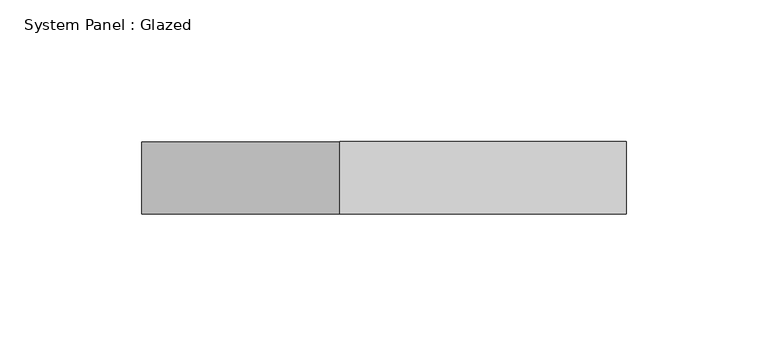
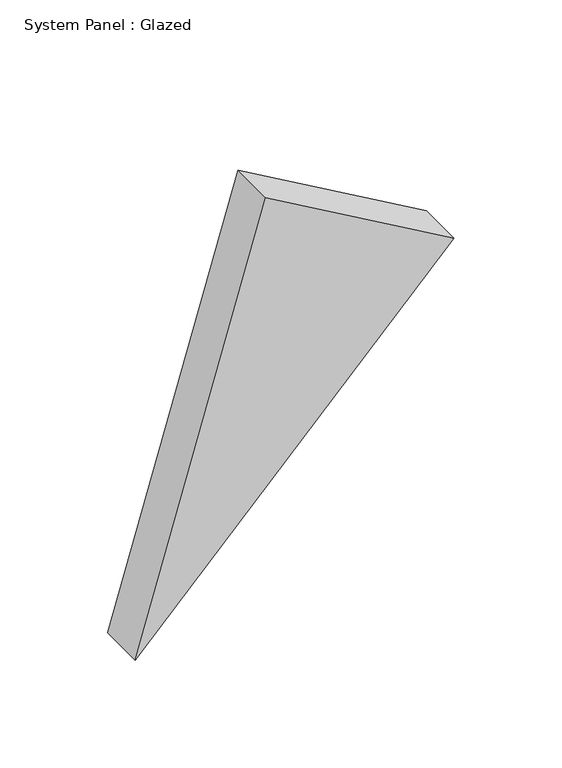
"""IFC4 building model written with IfcOpenShell, lengths in millimetres: plate geometry, System Panel : Glazed."""

from ifc_helpers import new_model, si_unit, frame, origin, place, context, project, spatial, polyline, outline, extrude, source, transform, mapped, element, save


def system_panel_glazed_dba1addb(model_context):
    return source(origin(), model_context, "Body", "SweptSolid", [
        extrude(outline(polyline([(0.0, -85.2792404), (178.8182822, 85.2792404), (237.0658401, -15.5228005), (0.0, -85.2792404)])), frame((0.0, -44.45, 0.0), z_axis=(0.0, 1.0, 0.0), x_axis=(0.0, 0.0, 1.0)), (0.0, 0.0, 1.0), 25.4),
    ])


if __name__ == "__main__":
    model = new_model("IFC4")
    model_context = context("Model", 3, world=origin())
    ifc_project = project(units=[si_unit("LENGTHUNIT", "METRE", prefix="MILLI")], contexts=[model_context])
    site = spatial("IfcSite", under=ifc_project)
    building = spatial("IfcBuilding", under=site)
    placement = place(None, origin())
    system_panel_glazed_shape = system_panel_glazed_dba1addb(model_context)
    element("IfcPlate", 1, ObjectType="System Panel : Glazed", at=placement, inside=building, context=model_context, shape_type="MappedRepresentation", body=[
        mapped(system_panel_glazed_shape, transform((0.0, 0.0, 0.0), x_axis=(1.0, 0.0, 0.0), y_axis=(0.0, 1.0, 0.0), z_axis=(0.0, 0.0, 1.0))),
    ])
    save(model, "model.ifc")
